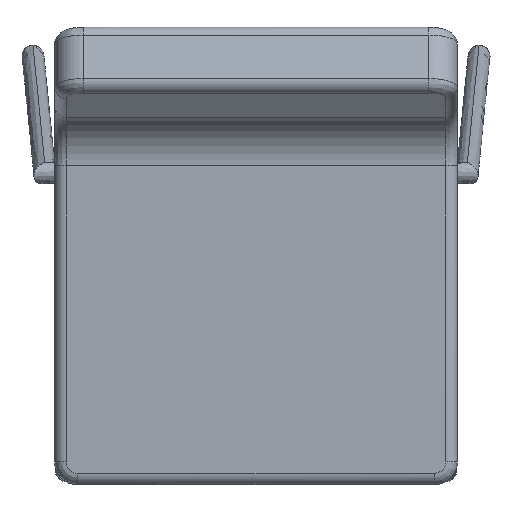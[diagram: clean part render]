
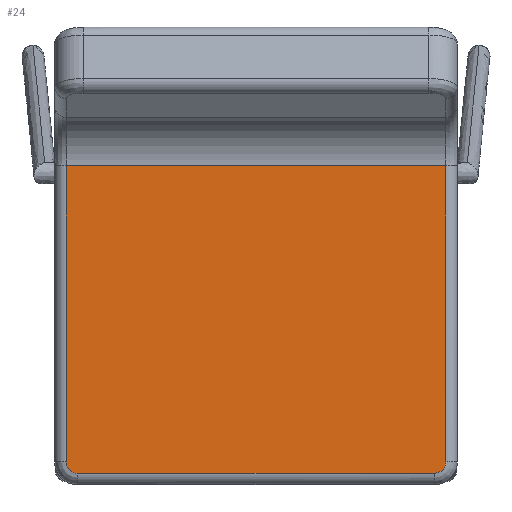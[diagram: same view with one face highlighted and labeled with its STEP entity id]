
A CAD part, top view. The second image highlights one B-rep face of the part: STEP entity #24.
In plain terms, the highlighted free-form (B-spline) face has degree [2, 1] with [3, 2] control points.
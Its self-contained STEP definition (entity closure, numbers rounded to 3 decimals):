
#24=ADVANCED_FACE('',(#102),#1172,.T.);
#102=FACE_OUTER_BOUND('',#180,.T.);
#180=EDGE_LOOP('',(#282,#283,#284,#285,#286,#287));
#282=ORIENTED_EDGE('',*,*,#701,.F.);
#283=ORIENTED_EDGE('',*,*,#656,.F.);
#284=ORIENTED_EDGE('',*,*,#697,.T.);
#285=ORIENTED_EDGE('',*,*,#724,.F.);
#286=ORIENTED_EDGE('',*,*,#657,.F.);
#287=ORIENTED_EDGE('',*,*,#726,.F.);
#656=EDGE_CURVE('',#1059,#1058,#908,.T.);
#657=EDGE_CURVE('',#1061,#1062,#909,.T.);
#697=EDGE_CURVE('',#1059,#1063,#941,.T.);
#701=EDGE_CURVE('',#1058,#1060,#945,.T.);
#724=EDGE_CURVE('',#1062,#1063,#968,.T.);
#726=EDGE_CURVE('',#1060,#1061,#970,.T.);
#908=(
BOUNDED_CURVE()
B_SPLINE_CURVE(1,(#1846,#1847),.UNSPECIFIED.,.F.,.F.)
B_SPLINE_CURVE_WITH_KNOTS((2,2),(10.,340.),.UNSPECIFIED.)
CURVE()
GEOMETRIC_REPRESENTATION_ITEM()
RATIONAL_B_SPLINE_CURVE((1.,1.))
REPRESENTATION_ITEM('')
);
#909=(
BOUNDED_CURVE()
B_SPLINE_CURVE(1,(#1848,#1849),.UNSPECIFIED.,.F.,.F.)
B_SPLINE_CURVE_WITH_KNOTS((2,2),(20.,330.),.UNSPECIFIED.)
CURVE()
GEOMETRIC_REPRESENTATION_ITEM()
RATIONAL_B_SPLINE_CURVE((1.,1.))
REPRESENTATION_ITEM('')
);
#941=(
BOUNDED_CURVE()
B_SPLINE_CURVE(1,(#1999,#2000),.UNSPECIFIED.,.F.,.F.)
B_SPLINE_CURVE_WITH_KNOTS((2,2),(0.,257.196),
 .UNSPECIFIED.)
CURVE()
GEOMETRIC_REPRESENTATION_ITEM()
RATIONAL_B_SPLINE_CURVE((1.,1.))
REPRESENTATION_ITEM('')
);
#945=(
BOUNDED_CURVE()
B_SPLINE_CURVE(1,(#2010,#2011),.UNSPECIFIED.,.F.,.F.)
B_SPLINE_CURVE_WITH_KNOTS((2,2),(0.,257.196),
 .UNSPECIFIED.)
CURVE()
GEOMETRIC_REPRESENTATION_ITEM()
RATIONAL_B_SPLINE_CURVE((1.,1.))
REPRESENTATION_ITEM('')
);
#968=(
BOUNDED_CURVE()
B_SPLINE_CURVE(3,(#2144,#2145,#2146,#2147,#2148,#2149,#2150),
 .UNSPECIFIED.,.F.,.F.)
B_SPLINE_CURVE_WITH_KNOTS((4,1,1,1,4),(0.,3.739,7.79,
11.846,15.708),.UNSPECIFIED.)
CURVE()
GEOMETRIC_REPRESENTATION_ITEM()
RATIONAL_B_SPLINE_CURVE((1.,1.,1.,1.,1.,1.,1.))
REPRESENTATION_ITEM('')
);
#970=(
BOUNDED_CURVE()
B_SPLINE_CURVE(3,(#2158,#2159,#2160,#2161,#2162,#2163,#2164),
 .UNSPECIFIED.,.F.,.F.)
B_SPLINE_CURVE_WITH_KNOTS((4,1,1,1,4),(0.,3.739,7.79,
11.846,15.708),.UNSPECIFIED.)
CURVE()
GEOMETRIC_REPRESENTATION_ITEM()
RATIONAL_B_SPLINE_CURVE((1.,1.,1.,1.,1.,1.,1.))
REPRESENTATION_ITEM('')
);
#1058=VERTEX_POINT('',#1792);
#1059=VERTEX_POINT('',#1793);
#1060=VERTEX_POINT('',#1794);
#1061=VERTEX_POINT('',#1795);
#1062=VERTEX_POINT('',#1796);
#1063=VERTEX_POINT('',#1797);
#1172=(
BOUNDED_SURFACE()
B_SPLINE_SURFACE(2,1,((#1320,#1321),(#1322,#1323),(#1324,#1325)),
 .UNSPECIFIED.,.F.,.F.,.F.)
B_SPLINE_SURFACE_WITH_KNOTS((3,3),(2,2),(-365.936,-87.874),
(0.,350.),.UNSPECIFIED.)
GEOMETRIC_REPRESENTATION_ITEM()
RATIONAL_B_SPLINE_SURFACE(((1.,1.),(1.,1.),(1.,1.)))
REPRESENTATION_ITEM('')
SURFACE()
);
#1320=CARTESIAN_POINT('',(-4586.561,115.139,448.633));
#1321=CARTESIAN_POINT('',(-4236.561,115.139,448.633));
#1322=CARTESIAN_POINT('',(-4586.561,-23.459,448.633));
#1323=CARTESIAN_POINT('',(-4236.561,-23.459,448.633));
#1324=CARTESIAN_POINT('',(-4586.561,-162.057,448.633));
#1325=CARTESIAN_POINT('',(-4236.561,-162.057,448.633));
#1792=CARTESIAN_POINT('',(-4246.561,115.139,448.633));
#1793=CARTESIAN_POINT('',(-4576.561,115.139,448.633));
#1794=CARTESIAN_POINT('',(-4246.561,-142.057,448.633));
#1795=CARTESIAN_POINT('',(-4256.561,-152.057,448.633));
#1796=CARTESIAN_POINT('',(-4566.561,-152.057,448.633));
#1797=CARTESIAN_POINT('',(-4576.561,-142.057,448.633));
#1846=CARTESIAN_POINT('',(-4576.561,115.139,448.633));
#1847=CARTESIAN_POINT('',(-4246.561,115.139,448.633));
#1848=CARTESIAN_POINT('',(-4256.561,-152.057,448.633));
#1849=CARTESIAN_POINT('',(-4566.561,-152.057,448.633));
#1999=CARTESIAN_POINT('',(-4576.561,115.139,448.633));
#2000=CARTESIAN_POINT('',(-4576.561,-142.057,448.633));
#2010=CARTESIAN_POINT('',(-4246.561,115.139,448.633));
#2011=CARTESIAN_POINT('',(-4246.561,-142.057,448.633));
#2144=CARTESIAN_POINT('',(-4566.561,-152.057,448.633));
#2145=CARTESIAN_POINT('',(-4567.807,-152.058,448.633));
#2146=CARTESIAN_POINT('',(-4570.404,-151.567,448.633));
#2147=CARTESIAN_POINT('',(-4573.783,-149.371,448.633));
#2148=CARTESIAN_POINT('',(-4576.045,-145.984,448.633));
#2149=CARTESIAN_POINT('',(-4576.562,-143.345,448.633));
#2150=CARTESIAN_POINT('',(-4576.561,-142.057,448.633));
#2158=CARTESIAN_POINT('',(-4246.561,-142.057,448.633));
#2159=CARTESIAN_POINT('',(-4246.561,-143.304,448.633));
#2160=CARTESIAN_POINT('',(-4247.052,-145.9,448.633));
#2161=CARTESIAN_POINT('',(-4249.248,-149.28,448.633));
#2162=CARTESIAN_POINT('',(-4252.635,-151.542,448.633));
#2163=CARTESIAN_POINT('',(-4255.274,-152.058,448.633));
#2164=CARTESIAN_POINT('',(-4256.561,-152.057,448.633));
